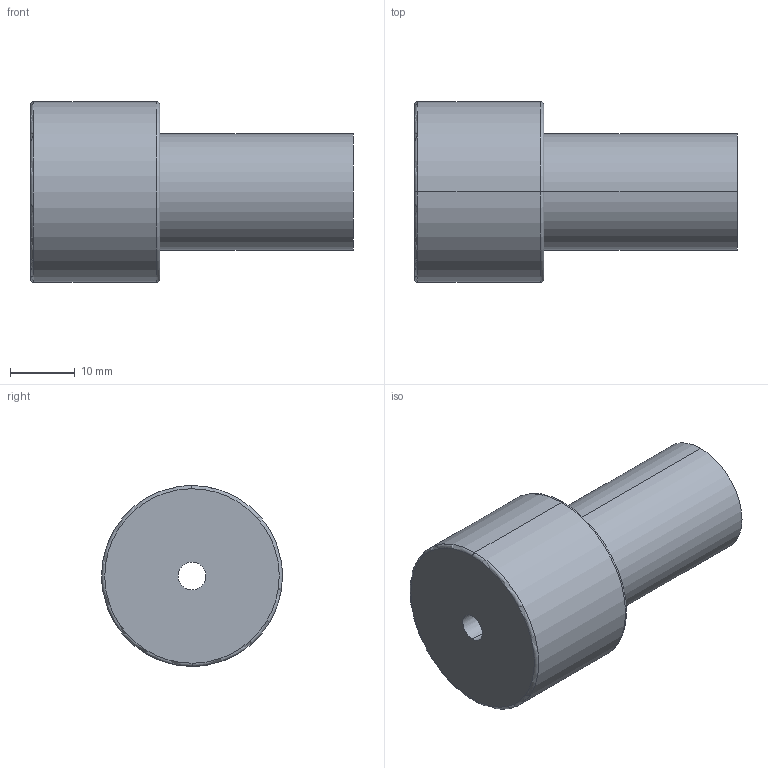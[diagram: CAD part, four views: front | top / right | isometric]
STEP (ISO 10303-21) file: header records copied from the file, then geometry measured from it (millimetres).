
FILE_DESCRIPTION(('CATIA V5 STEP Exchange'),'2;1');
FILE_NAME('C:\Users\Utente\Desktop\IO LAVORO\3D X SITO CF\X SITO\PLASTICA\3D files 367\367F-18X50.stp','2021-03-24T16:18:10+00:00',('none'),('none'),'CATIA Version 5 Release 20 GA (IN-10)','CATIA V5 STEP AP203','none');
FILE_SCHEMA(('CONFIG_CONTROL_DESIGN'));
Length unit declared in the file: millimetre
Products named in the file (1): 367F-18X50
Bounding box: 50 x 28 x 28 mm (x, y, z)
Volume: 18681.7 mm3; surface area: 5478.6 mm2
Topology: 1 solids, 1 shells, 13 faces, 42 edges, 32 vertices
Faces by surface type: torus 4, cylinder 4, plane 3, cone 2
Entity records: 614 total; most frequent: CARTESIAN_POINT 200, ORIENTED_EDGE 84, DIRECTION 60, AXIS2_PLACEMENT_3D 42, EDGE_CURVE 42, VERTEX_POINT 32, CIRCLE 28, EDGE_LOOP 16
